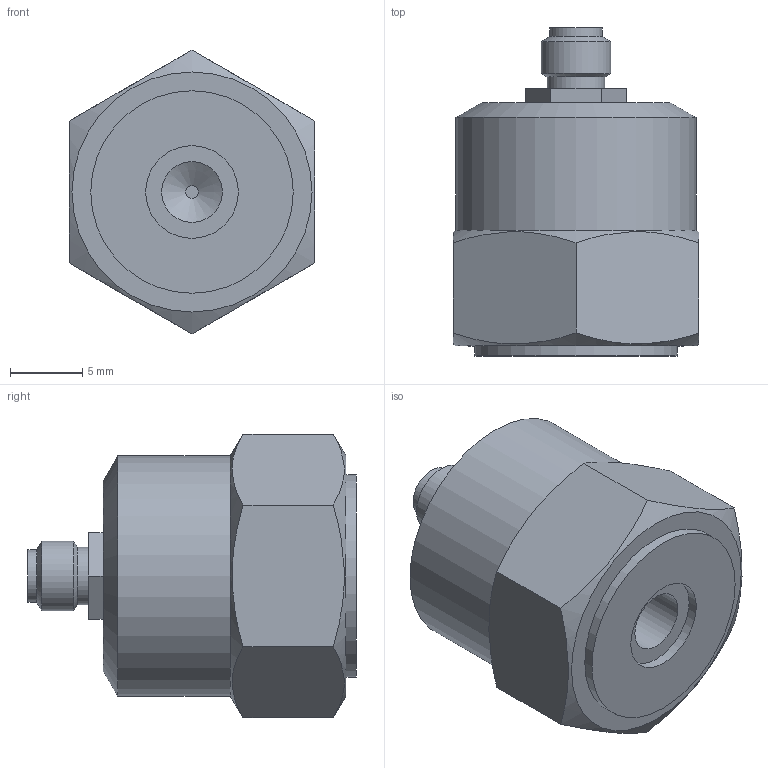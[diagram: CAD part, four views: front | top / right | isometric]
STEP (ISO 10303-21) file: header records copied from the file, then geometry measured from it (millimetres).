
FILE_DESCRIPTION(/* description */ ('Alibre Inc.'),/* implementation_level */ '2;1');
FILE_NAME(/* name */ 'export-7AE98A63-B31E-4487-A875-8C398E7EAEC8',/* time_stamp */ '2021-04-13T16:26:27+02:00',/* author */ (''),/* organization */ (''),/* preprocessor_version */ 'ST-DEVELOPER v17',/* originating_system */ 'Alibre',/* authorisation */ '');
FILE_SCHEMA (('CONFIG_CONTROL_DESIGN'));
Length unit declared in the file: millimetre
Bounding box: 17 x 22.7 x 19.63 mm (x, y, z)
Volume: 3957.9 mm3; surface area: 1579.2 mm2
Topology: 1 solids, 2 shells, 60 faces, 139 edges, 91 vertices
Faces by surface type: plane 34, cylinder 17, cone 8, torus 1
Full cylindrical faces by diameter (mm): 0.8 x1, 1.3 x1, 2.4 x1, 3.2 x1, 3.6 x1, 4 x1, 4.2 x1, 4.826 x1, 6.4 x1, 14 x1, 16.6 x1
Entity records: 1511 total; most frequent: CARTESIAN_POINT 274, ORIENTED_EDGE 230, DIRECTION 198, EDGE_CURVE 115, AXIS2_PLACEMENT_3D 87, EDGE_LOOP 86, FACE_BOUND 86, VERTEX_POINT 85
